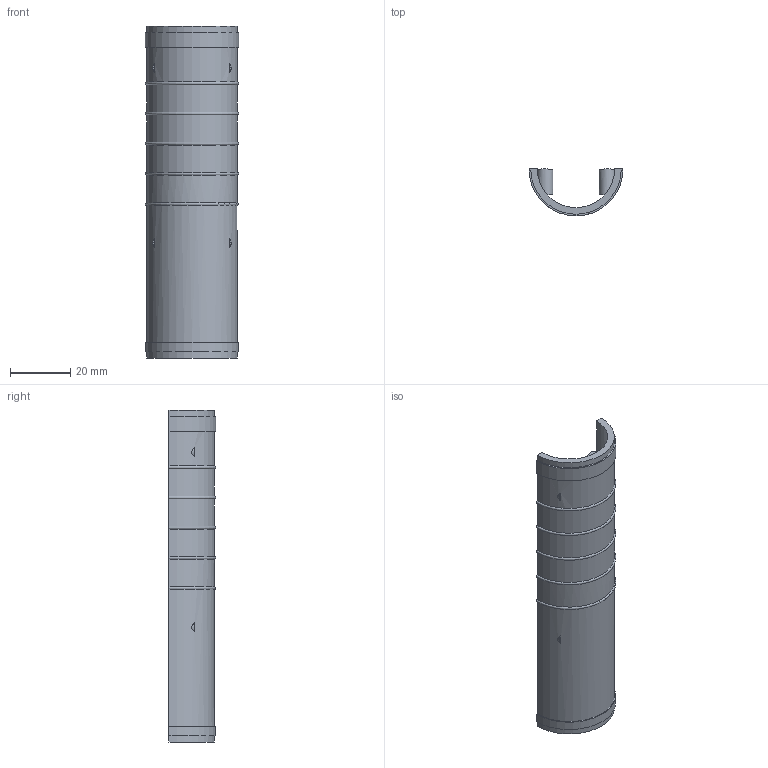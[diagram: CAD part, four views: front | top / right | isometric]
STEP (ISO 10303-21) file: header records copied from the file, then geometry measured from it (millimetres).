
FILE_DESCRIPTION(('Open CASCADE Model'),'2;1');
FILE_NAME('MW-P-001B_LOWER_PRINTED_SHELL','2026-08-22T00:00:00',( 'Author'),('Open CASCADE'),'Open CASCADE STEP processor 7.8', 'build123d','Unknown');
FILE_SCHEMA(('AUTOMOTIVE_DESIGN { 1 0 10303 214 1 1 1 1 }'));
Length unit declared in the file: millimetre
Products named in the file (1): MW-P-001B_LOWER_PRINTED_SHELL
Bounding box: 31.1 x 15.85 x 110 mm (x, y, z)
Volume: 11378 mm3; surface area: 11149.2 mm2
Topology: 1 solids, 1 shells, 67 faces, 186 edges, 124 vertices
Faces by surface type: plane 37, cylinder 25, torus 5
Full cylindrical faces by diameter (mm): 1.7 x4
Entity records: 7576 total; most frequent: CARTESIAN_POINT 4060, DIRECTION 585, ORIENTED_EDGE 372, PCURVE 372, DEFINITIONAL_REPRESENTATION 372, LINE 284, VECTOR 284, EDGE_CURVE 186
